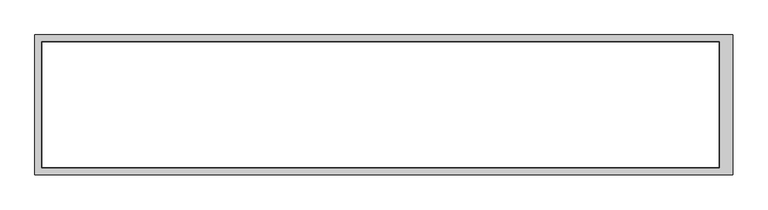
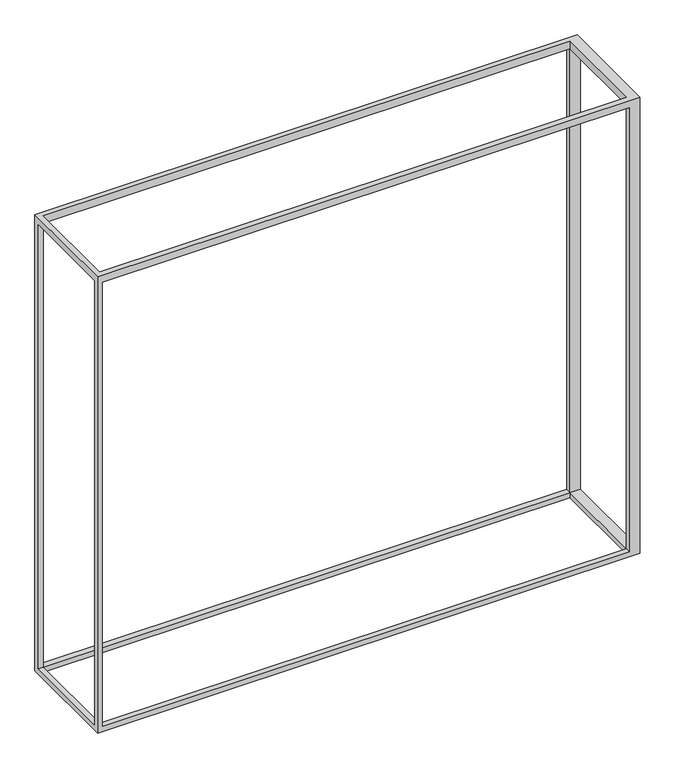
"""IFC4 building model written with IfcOpenShell, lengths in millimetres: furniture geometry, Rankgerüst : Rankgerüst."""

from ifc_helpers import new_model, si_unit, origin, place, context, project, spatial, faceted_brep, source, transform, mapped, element, save


def furniture_830f77a6(model_context):
    return source(origin(), model_context, "Body", "Brep", [
        faceted_brep([(0.0, -200.0, 1777.7765168), (0.0, 200.0, 1777.7765168), (-2000.0, 200.0, 1777.7765168), (-2000.0, -200.0, 1777.7765168), (-38.0, -180.0, 1777.7765168), (-1980.0, -180.0, 1777.7765168), (-1980.0, 180.0, 1777.7765168), (-38.0, 180.0, 1777.7765168), (0.0, -200.0, 0.0), (-2000.0, -200.0, 0.0), (-2000.0, 200.0, 0.0), (0.0, 200.0, 0.0), (-38.0, 180.0, 0.0), (-1980.0, 180.0, 0.0), (-1980.0, -180.0, 0.0), (-38.0, -180.0, 0.0), (-38.0, -200.0, 1749.6463039), (-38.0, -200.0, 20.0), (-1980.0, -200.0, 20.0), (-1980.0, -200.0, 1749.6463039), (-2000.0, 180.0, 1749.6463039), (-2000.0, -180.0, 1749.6463039), (-2000.0, -180.0, 20.0), (-2000.0, 180.0, 20.0), (-1980.0, 200.0, 1749.6463039), (-1980.0, 200.0, 20.0), (-38.0, 200.0, 20.0), (-38.0, 200.0, 1749.6463039), (0.0, 180.0, 20.0), (0.0, -180.0, 20.0), (0.0, -180.0, 1749.6463039), (0.0, 180.0, 1749.6463039), (-1980.0, -180.0, 1749.6463039), (-38.0, -180.0, 1749.6463039), (-38.0, 180.0, 1749.6463039), (-1980.0, 180.0, 1749.6463039), (-38.0, -180.0, 20.0), (-38.0, 180.0, 20.0), (-1980.0, -180.0, 20.0), (-1980.0, 180.0, 20.0)], [[[0, 1, 2, 3], [4, 5, 6, 7]], [[8, 9, 10, 11], [12, 13, 14, 15]], [[3, 9, 8, 0], [16, 17, 18, 19]], [[2, 10, 9, 3], [20, 21, 22, 23]], [[1, 11, 10, 2], [24, 25, 26, 27]], [[0, 8, 11, 1], [28, 29, 30, 31]], [[19, 32, 33, 16]], [[27, 34, 35, 24]], [[4, 7, 34, 33]], [[16, 33, 36, 17]], [[26, 37, 34, 27]], [[36, 37, 12, 15]], [[17, 36, 38, 18]], [[25, 39, 37, 26]], [[6, 5, 32, 35]], [[24, 35, 39, 25]], [[18, 38, 32, 19]], [[39, 38, 14, 13]], [[7, 6, 35, 34]], [[37, 39, 13, 12]], [[15, 14, 38, 36]], [[33, 32, 5, 4]], [[20, 23, 39, 35]], [[34, 37, 28, 31]], [[23, 22, 38, 39]], [[37, 36, 29, 28]], [[22, 21, 32, 38]], [[36, 33, 30, 29]], [[31, 30, 33, 34]], [[35, 32, 21, 20]]]),
    ])


if __name__ == "__main__":
    model = new_model("IFC4")
    model_context = context("Model", 3, world=origin())
    ifc_project = project(units=[si_unit("LENGTHUNIT", "METRE", prefix="MILLI")], contexts=[model_context])
    site = spatial("IfcSite", under=ifc_project)
    building = spatial("IfcBuilding", under=site)
    placement = place(None, origin())
    furniture_shape = furniture_830f77a6(model_context)
    element("IfcFurniture", 1, ObjectType="Rankgerüst : Rankgerüst", at=placement, inside=building, context=model_context, shape_type="MappedRepresentation", body=[
        mapped(furniture_shape, transform((0.0, 0.0, 0.0), x_axis=(1.0, 0.0, 0.0), y_axis=(0.0, 1.0, 0.0), z_axis=(0.0, 0.0, 1.0))),
    ])
    save(model, "model.ifc")
